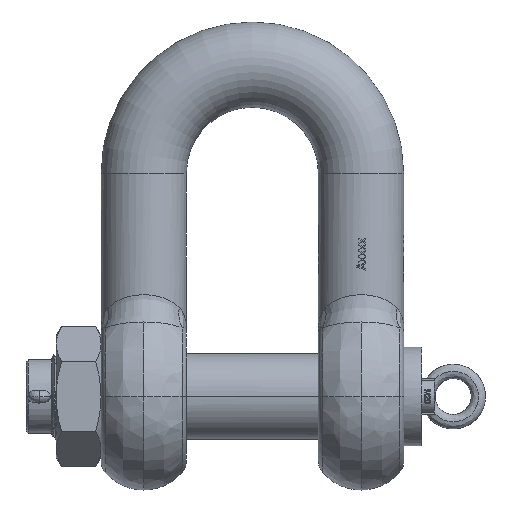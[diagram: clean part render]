
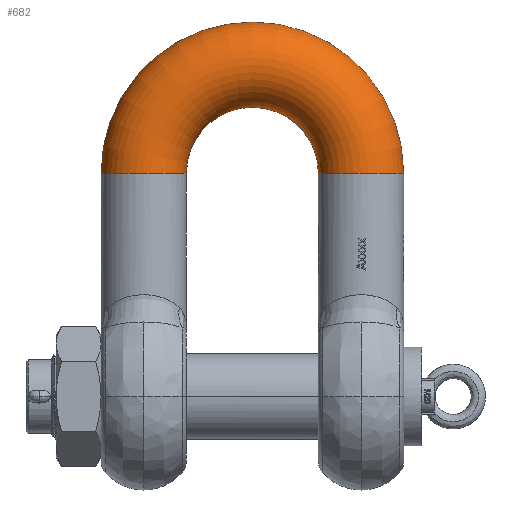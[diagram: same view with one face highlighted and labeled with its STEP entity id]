
A CAD part, front view. The second image highlights one B-rep face of the part: STEP entity #682.
In plain terms, the highlighted toroidal (fillet/blend) face has major radius 121 mm and minor radius 47.5 mm.
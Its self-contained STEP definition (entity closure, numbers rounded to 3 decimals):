
#682=ADVANCED_FACE('',(#2444),#2445,.T.);
#2444=FACE_OUTER_BOUND('',#6974,.T.);
#2445=TOROIDAL_SURFACE('',#6975,121.0,47.5);
#6974=EDGE_LOOP('',(#27886,#27887,#27888,#27889));
#6975=AXIS2_PLACEMENT_3D('',#27890,#27891,#27892);
#27886=ORIENTED_EDGE('',*,*,#35938,.T.);
#27887=ORIENTED_EDGE('',*,*,#35859,.F.);
#27888=ORIENTED_EDGE('',*,*,#35937,.T.);
#27889=ORIENTED_EDGE('',*,*,#36360,.T.);
#27890=CARTESIAN_POINT('',(0.0,0.0,248.5));
#27891=DIRECTION('',(0.0,-1.0,0.0));
#27892=DIRECTION('',(1.0,0.0,0.0));
#35859=EDGE_CURVE('',#40879,#40877,#41438,.T.);
#35937=EDGE_CURVE('',#40879,#41576,#41577,.T.);
#35938=EDGE_CURVE('',#41578,#40877,#41579,.F.);
#36360=EDGE_CURVE('',#41576,#41578,#42238,.F.);
#40877=VERTEX_POINT('',#52779);
#40879=VERTEX_POINT('',#52782);
#41438=CIRCLE('',#54412,47.5);
#41576=VERTEX_POINT('',#54745);
#41577=CIRCLE('',#54746,168.5);
#41578=VERTEX_POINT('',#54747);
#41579=CIRCLE('',#54748,73.5);
#42238=CIRCLE('',#56375,47.5);
#52779=CARTESIAN_POINT('',(73.5,0.0,248.5));
#52782=CARTESIAN_POINT('',(168.5,0.,248.5));
#54412=AXIS2_PLACEMENT_3D('',#78059,#78060,#78061);
#54745=CARTESIAN_POINT('',(-168.5,0.,248.5));
#54746=AXIS2_PLACEMENT_3D('',#78084,#78085,#78086);
#54747=CARTESIAN_POINT('',(-73.5,0.0,248.5));
#54748=AXIS2_PLACEMENT_3D('',#78087,#78088,#78089);
#56375=AXIS2_PLACEMENT_3D('',#78403,#78404,#78405);
#78059=CARTESIAN_POINT('',(121.0,0.0,248.5));
#78060=DIRECTION('',(0.0,0.0,-1.0));
#78061=DIRECTION('',(-1.0,0.0,0.0));
#78084=CARTESIAN_POINT('',(0.0,0.0,248.5));
#78085=DIRECTION('',(0.0,-1.0,0.0));
#78086=DIRECTION('',(-1.0,0.0,0.0));
#78087=CARTESIAN_POINT('',(0.0,0.,248.5));
#78088=DIRECTION('',(0.0,-1.0,0.0));
#78089=DIRECTION('',(-1.0,0.0,0.0));
#78403=CARTESIAN_POINT('',(-121.0,0.0,248.5));
#78404=DIRECTION('',(0.0,0.0,-1.0));
#78405=DIRECTION('',(-1.0,0.0,0.0));
